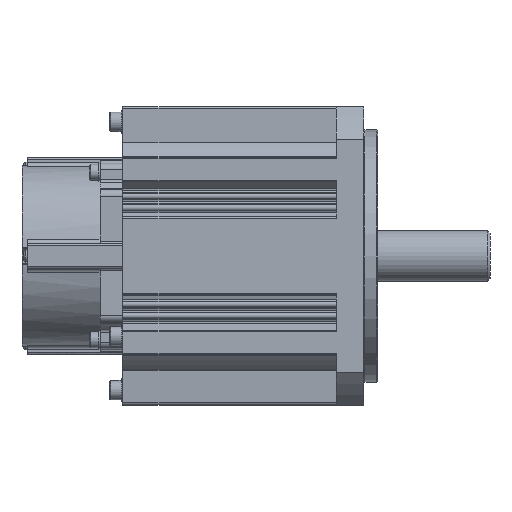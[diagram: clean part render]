
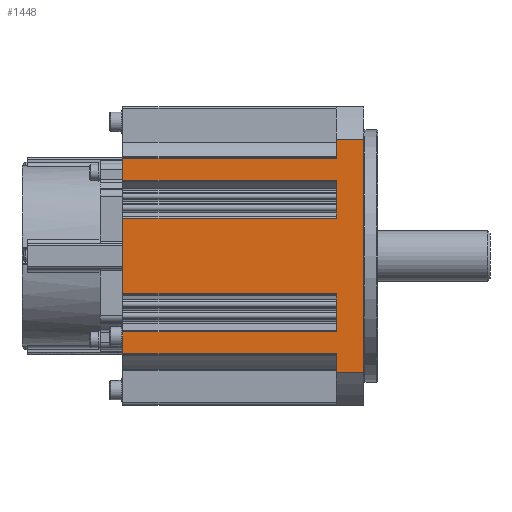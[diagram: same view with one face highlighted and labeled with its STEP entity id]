
A CAD part, front view. The second image highlights one B-rep face of the part: STEP entity #1448.
In plain terms, the highlighted planar face has unit normal (0, -1, 0).
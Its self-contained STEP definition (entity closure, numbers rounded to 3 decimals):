
#1448 = ADVANCED_FACE( '', ( #3068 ), #3069, .T. );
#3068 = FACE_OUTER_BOUND( '', #4889, .T. );
#3069 = PLANE( '', #4890 );
#4889 = EDGE_LOOP( '', ( #9215, #9216, #9217, #9218, #9219, #9220, #9221, #9222, #9223, #9224, #9225, #9226, #9227, #9228, #9229, #9230, #9231, #9232, #9233, #9234 ) );
#4890 = AXIS2_PLACEMENT_3D( '', #9235, #9236, #9237 );
#9215 = ORIENTED_EDGE( '', *, *, #11464, .F. );
#9216 = ORIENTED_EDGE( '', *, *, #10347, .T. );
#9217 = ORIENTED_EDGE( '', *, *, #11718, .F. );
#9218 = ORIENTED_EDGE( '', *, *, #10214, .F. );
#9219 = ORIENTED_EDGE( '', *, *, #11719, .F. );
#9220 = ORIENTED_EDGE( '', *, *, #10461, .T. );
#9221 = ORIENTED_EDGE( '', *, *, #11638, .T. );
#9222 = ORIENTED_EDGE( '', *, *, #11720, .F. );
#9223 = ORIENTED_EDGE( '', *, *, #11721, .F. );
#9224 = ORIENTED_EDGE( '', *, *, #11567, .F. );
#9225 = ORIENTED_EDGE( '', *, *, #11722, .F. );
#9226 = ORIENTED_EDGE( '', *, *, #11723, .T. );
#9227 = ORIENTED_EDGE( '', *, *, #11629, .T. );
#9228 = ORIENTED_EDGE( '', *, *, #11575, .F. );
#9229 = ORIENTED_EDGE( '', *, *, #10787, .F. );
#9230 = ORIENTED_EDGE( '', *, *, #11036, .F. );
#9231 = ORIENTED_EDGE( '', *, *, #11217, .F. );
#9232 = ORIENTED_EDGE( '', *, *, #10891, .T. );
#9233 = ORIENTED_EDGE( '', *, *, #11622, .T. );
#9234 = ORIENTED_EDGE( '', *, *, #10950, .F. );
#9235 = CARTESIAN_POINT( '', ( -105., -65., 50.806 ) );
#9236 = DIRECTION( '', ( 0., -1., 0. ) );
#9237 = DIRECTION( '', ( 0., 0., -1. ) );
#10214 = EDGE_CURVE( '', #12260, #12263, #12264, .T. );
#10347 = EDGE_CURVE( '', #12484, #12488, #12490, .T. );
#10461 = EDGE_CURVE( '', #12683, #12681, #12684, .T. );
#10787 = EDGE_CURVE( '', #13204, #13205, #13206, .T. );
#10891 = EDGE_CURVE( '', #13364, #13362, #13365, .T. );
#10950 = EDGE_CURVE( '', #13455, #13453, #13457, .T. );
#11036 = EDGE_CURVE( '', #13589, #13204, #13590, .T. );
#11217 = EDGE_CURVE( '', #13364, #13589, #13842, .T. );
#11464 = EDGE_CURVE( '', #12484, #13455, #14163, .T. );
#11567 = EDGE_CURVE( '', #14293, #14256, #14294, .T. );
#11575 = EDGE_CURVE( '', #13205, #14301, #14303, .T. );
#11622 = EDGE_CURVE( '', #13362, #13453, #14361, .T. );
#11629 = EDGE_CURVE( '', #14371, #14301, #14372, .T. );
#11638 = EDGE_CURVE( '', #12681, #14383, #14385, .T. );
#11718 = EDGE_CURVE( '', #12263, #12488, #14472, .T. );
#11719 = EDGE_CURVE( '', #12683, #12260, #14473, .T. );
#11720 = EDGE_CURVE( '', #14474, #14383, #14475, .T. );
#11721 = EDGE_CURVE( '', #14256, #14474, #14476, .T. );
#11722 = EDGE_CURVE( '', #14477, #14293, #14478, .T. );
#11723 = EDGE_CURVE( '', #14477, #14371, #14479, .T. );
#12260 = VERTEX_POINT( '', #15164 );
#12263 = VERTEX_POINT( '', #15167 );
#12264 = LINE( '', #15168, #15169 );
#12484 = VERTEX_POINT( '', #15483 );
#12488 = VERTEX_POINT( '', #15488 );
#12490 = LINE( '', #15490, #15491 );
#12681 = VERTEX_POINT( '', #15803 );
#12683 = VERTEX_POINT( '', #15805 );
#12684 = LINE( '', #15806, #15807 );
#13204 = VERTEX_POINT( '', #16518 );
#13205 = VERTEX_POINT( '', #16519 );
#13206 = LINE( '', #16520, #16521 );
#13362 = VERTEX_POINT( '', #16718 );
#13364 = VERTEX_POINT( '', #16720 );
#13365 = LINE( '', #16721, #16722 );
#13453 = VERTEX_POINT( '', #16835 );
#13455 = VERTEX_POINT( '', #16837 );
#13457 = LINE( '', #16839, #16840 );
#13589 = VERTEX_POINT( '', #17026 );
#13590 = LINE( '', #17027, #17028 );
#13842 = LINE( '', #17360, #17361 );
#14163 = LINE( '', #17846, #17847 );
#14256 = VERTEX_POINT( '', #17958 );
#14293 = VERTEX_POINT( '', #18005 );
#14294 = LINE( '', #18006, #18007 );
#14301 = VERTEX_POINT( '', #18015 );
#14303 = LINE( '', #18017, #18018 );
#14361 = LINE( '', #18103, #18104 );
#14371 = VERTEX_POINT( '', #18114 );
#14372 = LINE( '', #18115, #18116 );
#14383 = VERTEX_POINT( '', #18129 );
#14385 = LINE( '', #18131, #18132 );
#14472 = LINE( '', #18239, #18240 );
#14473 = LINE( '', #18241, #18242 );
#14474 = VERTEX_POINT( '', #18243 );
#14475 = LINE( '', #18244, #18245 );
#14476 = LINE( '', #18246, #18247 );
#14477 = VERTEX_POINT( '', #18248 );
#14478 = LINE( '', #18249, #18250 );
#14479 = LINE( '', #18251, #18252 );
#15164 = CARTESIAN_POINT( '', ( -12., -65., 50.806 ) );
#15167 = CARTESIAN_POINT( '', ( 0., -65., 50.806 ) );
#15168 = CARTESIAN_POINT( '', ( -105., -65., 50.806 ) );
#15169 = VECTOR( '', #18715, 1000. );
#15483 = CARTESIAN_POINT( '', ( -12., -65., -50.806 ) );
#15488 = CARTESIAN_POINT( '', ( 0., -65., -50.806 ) );
#15490 = CARTESIAN_POINT( '', ( -105., -65., -50.806 ) );
#15491 = VECTOR( '', #18884, 1000. );
#15803 = CARTESIAN_POINT( '', ( -105., -65., 42.5 ) );
#15805 = CARTESIAN_POINT( '', ( -12., -65., 42.5 ) );
#15806 = CARTESIAN_POINT( '', ( -12., -65., 42.5 ) );
#15807 = VECTOR( '', #19036, 1000. );
#16518 = CARTESIAN_POINT( '', ( -12., -65., -21. ) );
#16519 = CARTESIAN_POINT( '', ( -12., -65., -16.5 ) );
#16520 = CARTESIAN_POINT( '', ( -12., -65., 50.806 ) );
#16521 = VECTOR( '', #19480, 1000. );
#16718 = CARTESIAN_POINT( '', ( -105., -65., -33.089 ) );
#16720 = CARTESIAN_POINT( '', ( -12., -65., -33.089 ) );
#16721 = CARTESIAN_POINT( '', ( -12., -65., -33.089 ) );
#16722 = VECTOR( '', #19636, 1000. );
#16835 = CARTESIAN_POINT( '', ( -105., -65., -42.5 ) );
#16837 = CARTESIAN_POINT( '', ( -12., -65., -42.5 ) );
#16839 = CARTESIAN_POINT( '', ( -12., -65., -42.5 ) );
#16840 = VECTOR( '', #19722, 1000. );
#17026 = CARTESIAN_POINT( '', ( -12., -65., -26. ) );
#17027 = CARTESIAN_POINT( '', ( -12., -65., 50.806 ) );
#17028 = VECTOR( '', #19834, 1000. );
#17360 = CARTESIAN_POINT( '', ( -12., -65., 50.806 ) );
#17361 = VECTOR( '', #20070, 1000. );
#17846 = CARTESIAN_POINT( '', ( -12., -65., 50.806 ) );
#17847 = VECTOR( '', #20339, 1000. );
#17958 = CARTESIAN_POINT( '', ( -12., -65., 26. ) );
#18005 = CARTESIAN_POINT( '', ( -12., -65., 21. ) );
#18006 = CARTESIAN_POINT( '', ( -12., -65., 50.806 ) );
#18007 = VECTOR( '', #20464, 1000. );
#18015 = CARTESIAN_POINT( '', ( -105., -65., -16.5 ) );
#18017 = CARTESIAN_POINT( '', ( -12., -65., -16.5 ) );
#18018 = VECTOR( '', #20475, 1000. );
#18103 = CARTESIAN_POINT( '', ( -105., -65., 50.806 ) );
#18104 = VECTOR( '', #20557, 1000. );
#18114 = CARTESIAN_POINT( '', ( -105., -65., 16.5 ) );
#18115 = CARTESIAN_POINT( '', ( -105., -65., 50.806 ) );
#18116 = VECTOR( '', #20576, 1000. );
#18129 = CARTESIAN_POINT( '', ( -105., -65., 33.089 ) );
#18131 = CARTESIAN_POINT( '', ( -105., -65., 50.806 ) );
#18132 = VECTOR( '', #20597, 1000. );
#18239 = CARTESIAN_POINT( '', ( 0., -65., 50.806 ) );
#18240 = VECTOR( '', #20654, 1000. );
#18241 = CARTESIAN_POINT( '', ( -12., -65., 50.806 ) );
#18242 = VECTOR( '', #20655, 1000. );
#18243 = CARTESIAN_POINT( '', ( -12., -65., 33.089 ) );
#18244 = CARTESIAN_POINT( '', ( -12., -65., 33.089 ) );
#18245 = VECTOR( '', #20656, 1000. );
#18246 = CARTESIAN_POINT( '', ( -12., -65., 50.806 ) );
#18247 = VECTOR( '', #20657, 1000. );
#18248 = CARTESIAN_POINT( '', ( -12., -65., 16.5 ) );
#18249 = CARTESIAN_POINT( '', ( -12., -65., 50.806 ) );
#18250 = VECTOR( '', #20658, 1000. );
#18251 = CARTESIAN_POINT( '', ( -12., -65., 16.5 ) );
#18252 = VECTOR( '', #20659, 1000. );
#18715 = DIRECTION( '', ( 1., 0., 0. ) );
#18884 = DIRECTION( '', ( 1., 0., 0. ) );
#19036 = DIRECTION( '', ( -1., 0., 0. ) );
#19480 = DIRECTION( '', ( 0., 0., 1. ) );
#19636 = DIRECTION( '', ( -1., 0., 0. ) );
#19722 = DIRECTION( '', ( -1., 0., 0. ) );
#19834 = DIRECTION( '', ( 0., 0., 1. ) );
#20070 = DIRECTION( '', ( 0., 0., 1. ) );
#20339 = DIRECTION( '', ( 0., 0., 1. ) );
#20464 = DIRECTION( '', ( 0., 0., 1. ) );
#20475 = DIRECTION( '', ( -1., 0., 0. ) );
#20557 = DIRECTION( '', ( 0., 0., -1. ) );
#20576 = DIRECTION( '', ( 0., 0., -1. ) );
#20597 = DIRECTION( '', ( 0., 0., -1. ) );
#20654 = DIRECTION( '', ( 0., 0., -1. ) );
#20655 = DIRECTION( '', ( 0., 0., 1. ) );
#20656 = DIRECTION( '', ( -1., 0., 0. ) );
#20657 = DIRECTION( '', ( 0., 0., 1. ) );
#20658 = DIRECTION( '', ( 0., 0., 1. ) );
#20659 = DIRECTION( '', ( -1., 0., 0. ) );
